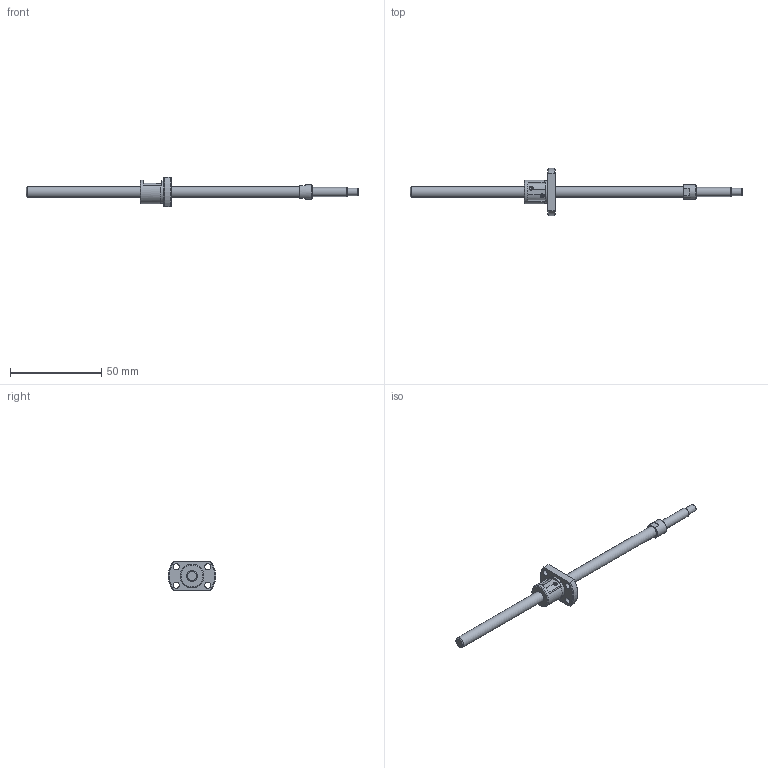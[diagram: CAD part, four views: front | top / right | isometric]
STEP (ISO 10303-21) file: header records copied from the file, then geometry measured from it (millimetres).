
FILE_DESCRIPTION(/* description */ ('STEP AP214'),/* implementation_level */ '2;1');
FILE_NAME(/* name */ 'SRT0601-146R182C7A0X(62.5Processing)',/* time_stamp */ '2026-08-04T17:53:08+02:00',/* author */ ('License CC BY-ND 4.0'),/* organization */ ('CADENAS'),/* preprocessor_version */ 'ST-DEVELOPER v20',/* originating_system */ 'PARTsolutions',/* authorisation */ ' ');
FILE_SCHEMA (('AUTOMOTIVE_DESIGN {1 0 10303 214 3 1 1}'));
Length unit declared in the file: millimetre
Products named in the file (3): SRT0601-146R182C7A0X(62.5Processing); SRT0601-146R220ACt7Processing13Shaft; SRT0601Nut
Assembly tree (2 placements, depth 2):
  SRT0601-146R182C7A0X(62.5Processing)
    SRT0601-146R220ACt7Processing13Shaft
    SRT0601Nut
Bounding box: 182 x 26 x 16 mm (x, y, z)
Volume: 7505 mm3; surface area: 5434.5 mm2
Topology: 2 solids, 2 shells, 61 faces, 155 edges, 102 vertices
Faces by surface type: plane 30, cylinder 17, cone 13, torus 1
Full cylindrical faces by diameter (mm): 1 x2, 3.4 x4, 4 x1, 5 x1, 6 x2, 8 x1, 12.5 x1, 13 x1
Entity records: 1747 total; most frequent: CARTESIAN_POINT 336, DIRECTION 288, ORIENTED_EDGE 238, AXIS2_PLACEMENT_3D 123, EDGE_CURVE 119, EDGE_LOOP 98, FACE_BOUND 98, VERTEX_POINT 89
